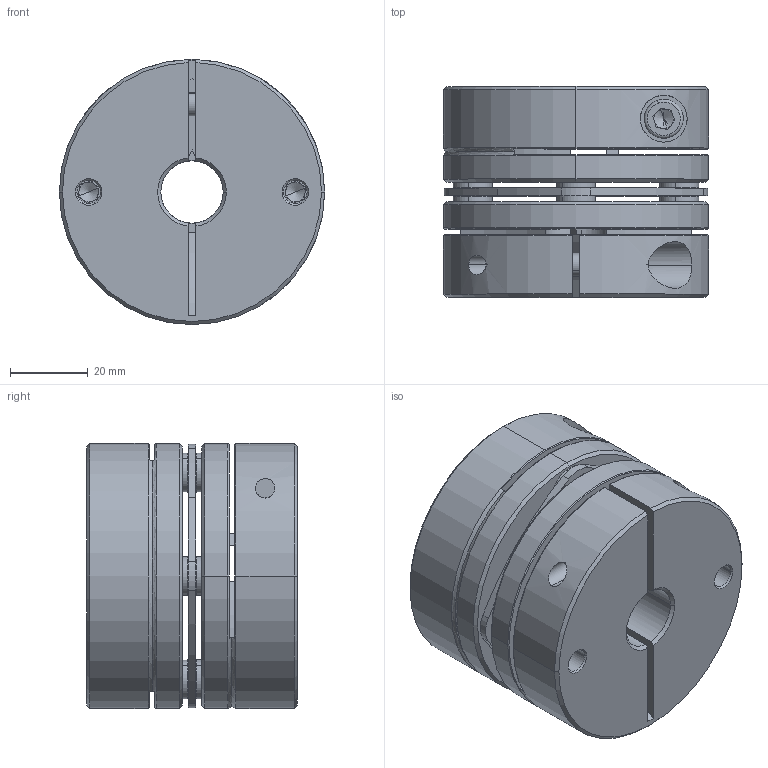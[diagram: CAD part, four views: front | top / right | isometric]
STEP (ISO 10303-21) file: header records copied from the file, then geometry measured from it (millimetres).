
FILE_DESCRIPTION (( 'STEP AP203' ), '1' );
FILE_NAME ('LD1-D68-16-16.STEP', '2021-10-26T07:48:04', ( '' ), ( '' ), 'SwSTEP 2.0', 'SolidWorks 2018', '' );
FILE_SCHEMA (( 'CONFIG_CONTROL_DESIGN' ));
Length unit declared in the file: millimetre
Products named in the file (2): LD1-D68-16-16; 錨璃101^LD1-D68
Assembly tree (1 placements, depth 2):
  LD1-D68-16-16
    錨璃101^LD1-D68
Bounding box: 68 x 54 x 68 mm (x, y, z)
Volume: 156125.2 mm3; surface area: 47304.6 mm2
Topology: 1 solids, 15 shells, 445 faces, 1079 edges, 662 vertices
Faces by surface type: cylinder 161, plane 140, cone 122, torus 22
Entity records: 13633 total; most frequent: CARTESIAN_POINT 2640, DIRECTION 2465, ORIENTED_EDGE 2126, EDGE_CURVE 1063, AXIS2_PLACEMENT_3D 999, VERTEX_POINT 662, CIRCLE 550, EDGE_LOOP 525
